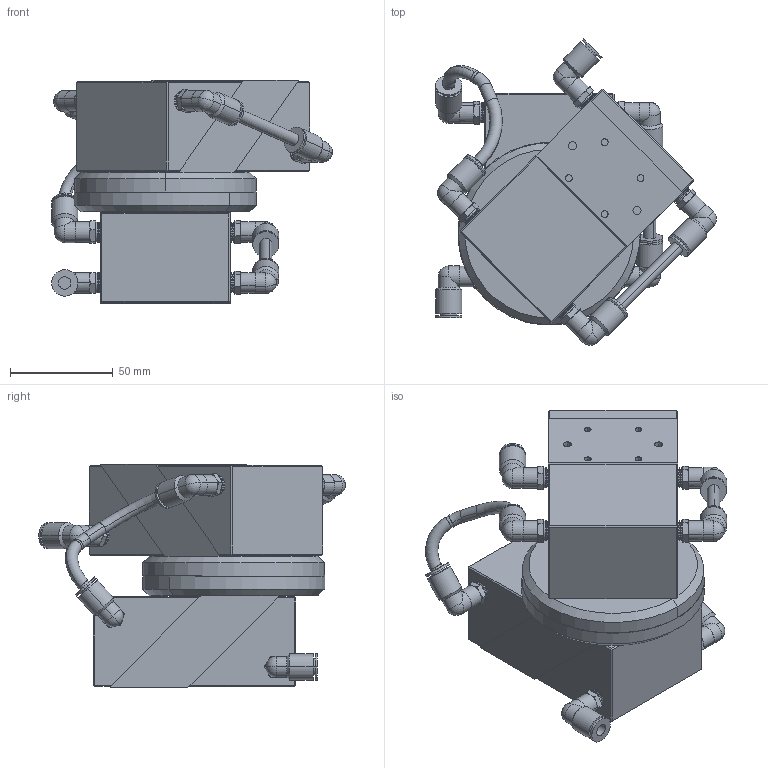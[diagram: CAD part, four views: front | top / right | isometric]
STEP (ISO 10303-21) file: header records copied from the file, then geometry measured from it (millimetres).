
FILE_DESCRIPTION (( 'STEP AP214' ), '1' );
FILE_NAME ('BQE-25-10.6.STEP', '2017-06-12T17:30:46', ( '' ), ( '' ), 'SwSTEP 2.0', 'SolidWorks 2017', '' );
FILE_SCHEMA (( 'AUTOMOTIVE_DESIGN' ));
Length unit declared in the file: inch
Products named in the file (1): BQE-25-10.6
Bounding box: 136.52 x 149.12 x 108.46 mm (x, y, z)
Volume: 677531.7 mm3; surface area: 101104.7 mm2
Topology: 2 solids, 2 shells, 808 faces, 1879 edges, 1189 vertices
Faces by surface type: plane 322, cylinder 246, cone 128, torus 68, bspline 28, sphere 16
Entity records: 25945 total; most frequent: CARTESIAN_POINT 7341, DIRECTION 4014, ORIENTED_EDGE 3722, EDGE_CURVE 1861, AXIS2_PLACEMENT_3D 1591, VERTEX_POINT 1189, EDGE_LOOP 944, VECTOR 832
